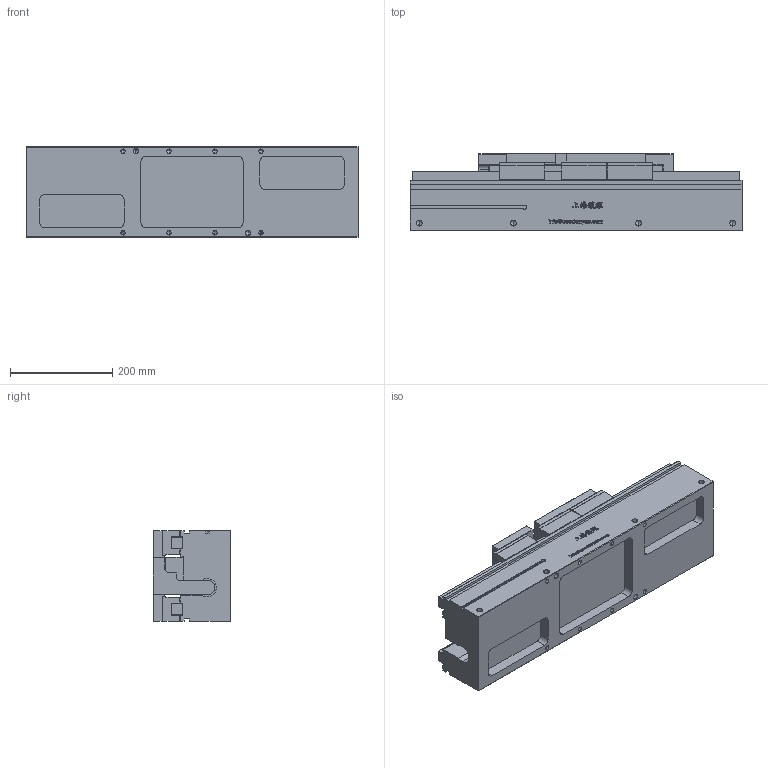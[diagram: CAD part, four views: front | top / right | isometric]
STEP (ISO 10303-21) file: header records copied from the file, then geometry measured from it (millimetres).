
FILE_DESCRIPTION (( 'STEP AP203' ), '1' );
FILE_NAME ('GPRS80-150-原始檔-組合-W106.04.18.STEP', '2017-04-18T02:39:43', ( 'DanyaoCAD' ), ( '' ), 'SwSTEP 2.0', 'SolidWorks 2016', '' );
FILE_SCHEMA (( 'CONFIG_CONTROL_DESIGN' ));
Length unit declared in the file: millimetre
Products named in the file (4): Slitta; Corpo; GPRS80-150-原始檔-組合-W106.04.18; Staffa
Assembly tree (5 placements, depth 2):
  GPRS80-150-原始檔-組合-W106.04.18
    Staffa  x2
    Slitta  x2
    Corpo
Bounding box: 650 x 152 x 178 mm (x, y, z)
Volume: 12633893.1 mm3; surface area: 838510.6 mm2
Topology: 5 solids, 5 shells, 1238 faces, 3449 edges, 2258 vertices
Faces by surface type: bspline 640, plane 450, cylinder 100, cone 48
Entity records: 51653 total; most frequent: CARTESIAN_POINT 27296, ORIENTED_EDGE 6098, EDGE_CURVE 3049, DIRECTION 2871, VERTEX_POINT 2017, LINE 1607, VECTOR 1607, B_SPLINE_CURVE_WITH_KNOTS 1280
